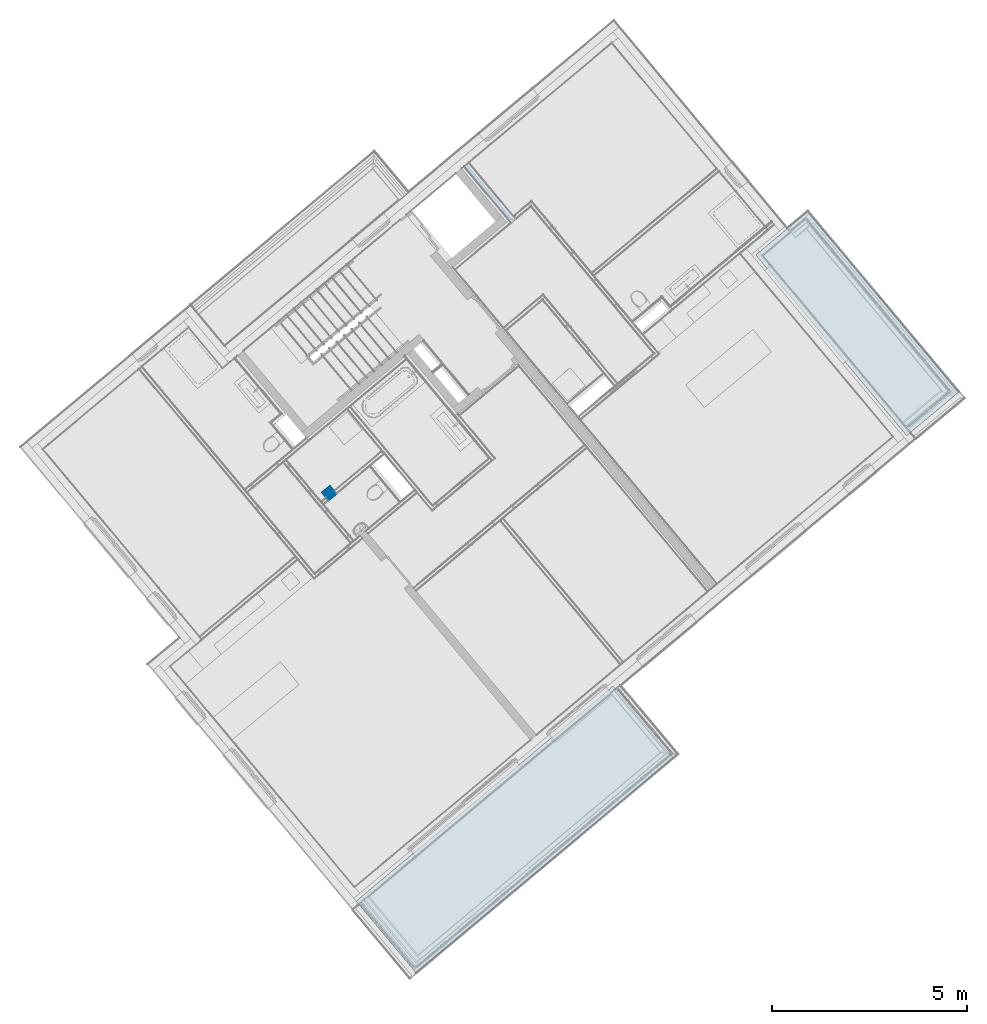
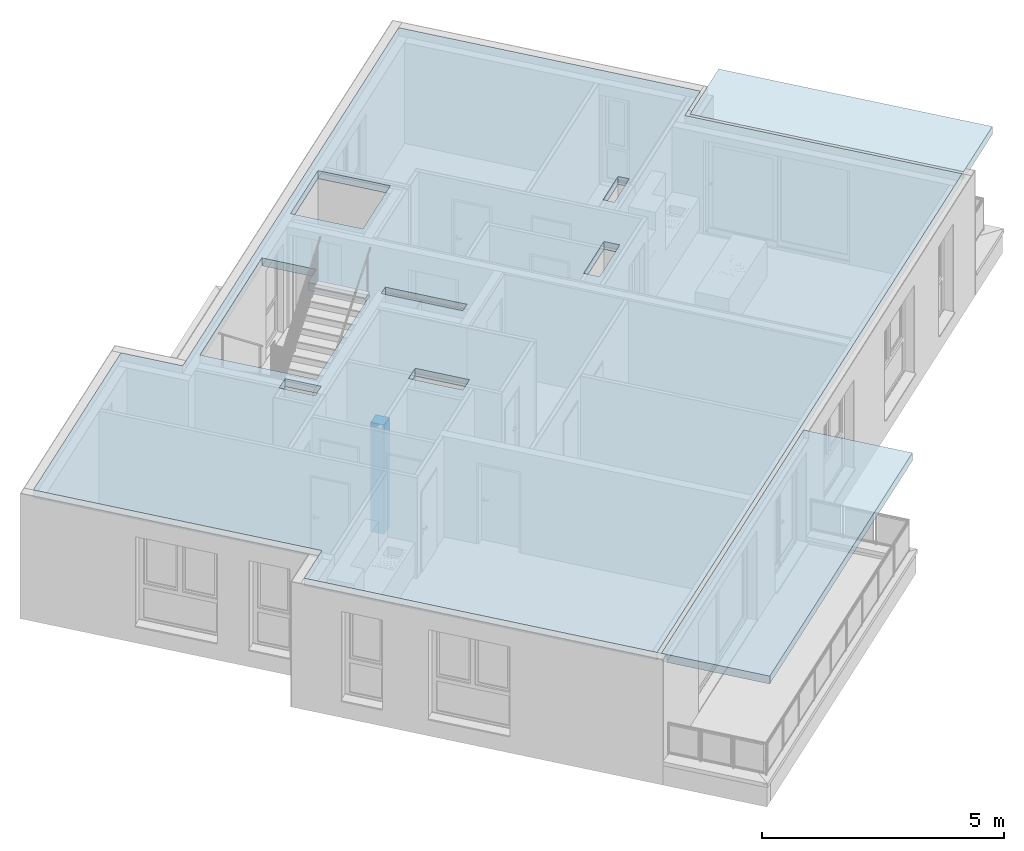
# One storey, part 6 of 53: 3 slabs, 1 column.
"""IFC4 building model written with IfcOpenShell, lengths in metres."""

from ifc_helpers import new_model, entity, si_unit, converted_unit, derived_unit, direction, frame, origin_with_axes, place, context, subcontext, project, spatial, polygons, material, type_object, element, save


model = new_model("IFC4")

# Units and contexts
model_context = context("Model", 3, precision=1e-05, world=origin_with_axes(), true_north=direction((0.0, 1.0)))
body_context = subcontext(model_context, "Body", "Model", "MODEL_VIEW")
ifc_project = project(units=[si_unit("LENGTHUNIT", "METRE"), si_unit("AREAUNIT", "SQUARE_METRE"), si_unit("VOLUMEUNIT", "CUBIC_METRE"), converted_unit("PLANEANGLEUNIT", "DEGREE", entity("IfcPlaneAngleMeasure", 0.0174532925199), si_unit("PLANEANGLEUNIT", "RADIAN"), dimensions=[0, 0, 0, 0, 0, 0, 0]), converted_unit("TIMEUNIT", "Year", entity("IfcTimeMeasure", 31556926.0), si_unit("TIMEUNIT", "SECOND"), dimensions=[0, 0, 1, 0, 0, 0, 0]), si_unit("MASSUNIT", "GRAM", prefix="KILO"), si_unit("THERMODYNAMICTEMPERATUREUNIT", "DEGREE_CELSIUS"), si_unit("LUMINOUSINTENSITYUNIT", "LUMEN"), si_unit("ENERGYUNIT", "JOULE", prefix="MEGA"), derived_unit("THERMALCONDUCTANCEUNIT", [(si_unit("POWERUNIT", "WATT"), 1), (si_unit("LENGTHUNIT", "METRE"), -1), (si_unit("THERMODYNAMICTEMPERATUREUNIT", "KELVIN"), -1)]), derived_unit("SPECIFICHEATCAPACITYUNIT", [(si_unit("ENERGYUNIT", "JOULE"), 1), (si_unit("MASSUNIT", "GRAM", prefix="KILO"), -1), (si_unit("THERMODYNAMICTEMPERATUREUNIT", "KELVIN"), -1)]), derived_unit("MASSDENSITYUNIT", [(si_unit("MASSUNIT", "GRAM", prefix="KILO"), 1), (si_unit("VOLUMEUNIT", "CUBIC_METRE"), -1)])], contexts=[model_context])

# Site, building, storey
site_placement = place(None, frame((-0.00153261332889, -0.00661245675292, 0.0), z_axis=(0.0, 0.0, 1.0), x_axis=(1.0, 0.0, 0.0)))
site = spatial("IfcSite", under=ifc_project, at=site_placement, Name="Gelände", CompositionType="ELEMENT")
building_placement = place(site_placement, origin_with_axes())
building = spatial("IfcBuilding", under=site, at=building_placement, Name="Gebäude", CompositionType="ELEMENT")
storey_placement = place(building_placement, frame((0.0, 0.0, 2.74), z_axis=(0.0, 0.0, 1.0), x_axis=(1.0, 0.0, 0.0)))
storey = spatial("IfcBuildingStorey", under=building, at=storey_placement, Name="OG1", CompositionType="ELEMENT", Elevation=2.74)

# Column
ifc_material_1 = material(Name="Stahlbeton")
column_type = type_object("IfcColumnType", Name="Stahlbeton 300 x 300", PredefinedType="NOTDEFINED")
column_placement = place(storey_placement, frame((-1.63508592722, 18.8845477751, 0.0), z_axis=(0.0, 0.0, 1.0), x_axis=(0.776862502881, 0.62967027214, 0.0)))
element("IfcColumn", 1, at=column_placement, inside=storey, type_object=column_type, material=ifc_material_1, Name="Stütze-002", PredefinedType="NOTDEFINED", context=body_context, shape_type="Tessellation", body=[
    polygons([(0.15, -0.15, 2.76), (-0.15, -0.15, 2.76), (-0.15, -0.15, 0.0), (0.15, -0.15, 0.0), (0.15, 0.15, 2.76), (-0.15, 0.15, 2.76), (-0.15, 0.15, 0.0), (0.15, 0.15, 0.0)], [[[1, 2, 3, 4]], [[5, 6, 2, 1]], [[2, 6, 7, 3]], [[8, 4, 3, 7]], [[5, 1, 4, 8]], [[6, 5, 8, 7]]], closed=True),
])

# Space
space_placement = place(storey_placement, frame((5.45265164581, 21.894591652, 0.0), z_axis=(0.0, 0.0, 1.0), x_axis=(-0.767365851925, -0.641209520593, 0.0)))
space = spatial("IfcSpace", under=storey, at=space_placement, CompositionType="ELEMENT", PredefinedType="NOTDEFINED")

# Slabs
ifc_material_2 = material(Name="Stahlbeton Decke")
slab_type = type_object("IfcSlabType", Name="Stahlbeton Decke 200", PredefinedType="NOTDEFINED")
slab_1_placement = place(space_placement, frame((12.4765603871, -8.00327675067, 2.96), z_axis=(0.0, 0.0, 1.0), x_axis=(-0.767365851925, 0.641209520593, 0.0)))
element("IfcSlab", 2, at=slab_1_placement, inside=space, type_object=slab_type, material=ifc_material_2, Name="Decke-005", PredefinedType="NOTDEFINED", context=body_context, shape_type="Tessellation", body=[
    polygons([(4.07665014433, -4.87872062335, 0.0), (0.0, 0.0, 0.0), (0.0, 0.0, -0.2), (4.07665014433, -4.87872062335, -0.2), (4.91680045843, 2.33426982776, 0.0), (4.04383630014, 3.37899544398, 0.0), (3.26020651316, -5.55747019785, 0.0), (8.24627027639, -11.5292856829, 0.0), (22.3482166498, 0.269879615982, 0.0), (18.4306387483, 4.95823093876, 0.0), (19.1505919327, 5.55982352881, 0.0), (14.885464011, 10.6640670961, 0.0), (8.66151722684, 3.63824574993, 0.0), (9.53351274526, 2.59478313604, 0.0), (7.06314257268, 0.530546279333, 0.0), (5.42163711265, 2.49501373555, 0.0), (8.28112859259, 4.88415112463, 0.0), (9.05053288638, 3.96327272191, 0.0), (6.75554469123, 0.0322142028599, 0.0), (6.24543082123, 0.642691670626, 0.0), (6.51828722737, 0.870689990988, 0.0), (7.02829317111, 0.260341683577, 0.0), (9.50268967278, -1.32098780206, 0.0), (8.73331585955, -0.400241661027, 0.0), (9.03663065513, -0.146792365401, 0.0), (9.80600446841, -1.06753850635, 0.0), (14.930655, 1.58962953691, 0.0), (13.994057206, 0.808009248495, 0.0), (13.7697528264, 1.07643551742, 0.0), (14.7058636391, 1.85864802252, 0.0), (10.9327816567, 1.15607498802, 0.0), (9.77780938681, 2.53828509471, 0.0), (9.96625314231, 2.69581328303, 0.0), (11.1206759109, 1.31292774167, 0.0), (15.6042936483, 2.98097432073, 0.0), (15.4451269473, 3.17145666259, 0.0), (16.1334349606, 3.74660559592, 0.0), (16.2921456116, 3.55574217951, 0.0), (11.8825374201, 5.80764906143, 0.0), (10.6160002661, 4.74933290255, 0.0), (9.59311855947, 5.97464512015, 0.0), (10.8590745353, 7.03247564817, 0.0), (4.04383630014, 3.37899544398, -0.2), (3.26020651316, -5.55747019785, -0.2), (4.91680045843, 2.33426982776, -0.2), (14.885464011, 10.6640670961, -0.2), (19.1505919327, 5.55982352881, -0.2), (18.4306387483, 4.95823093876, -0.2), (22.3482166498, 0.269879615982, -0.2), (8.24627027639, -11.5292856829, -0.2), (8.28112859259, 4.88415112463, -0.2), (5.42163711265, 2.49501373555, -0.2), (7.06314257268, 0.530546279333, -0.2), (9.53351274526, 2.59478313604, -0.2), (8.66151722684, 3.63824574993, -0.2), (9.05053288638, 3.96327272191, -0.2), (6.75554469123, 0.0322142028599, -0.2), (7.02829317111, 0.260341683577, -0.2), (6.51828722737, 0.870689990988, -0.2), (6.24543082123, 0.642691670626, -0.2), (9.50268967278, -1.32098780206, -0.2), (9.80600446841, -1.06753850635, -0.2), (9.03663065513, -0.146792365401, -0.2), (8.73331585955, -0.400241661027, -0.2), (14.930655, 1.58962953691, -0.2), (14.7058636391, 1.85864802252, -0.2), (13.7697528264, 1.07643551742, -0.2), (13.994057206, 0.808009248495, -0.2), (10.9327816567, 1.15607498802, -0.2), (11.1206759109, 1.31292774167, -0.2), (9.96625314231, 2.69581328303, -0.2), (9.77780938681, 2.53828509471, -0.2), (15.6042936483, 2.98097432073, -0.2), (16.2921456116, 3.55574217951, -0.2), (16.1334349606, 3.74660559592, -0.2), (15.4451269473, 3.17145666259, -0.2), (11.8825374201, 5.80764906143, -0.2), (10.8590745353, 7.03247564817, -0.2), (9.59311855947, 5.97464512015, -0.2), (10.6160002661, 4.74933290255, -0.2)], [[[1, 2, 3, 4]], [[5, 6, 2, 1, 7, 8, 9, 10, 11, 12], [13, 14, 15, 16, 17, 18], [19, 20, 21, 22], [23, 24, 25, 26], [27, 28, 29, 30], [31, 32, 33, 34], [35, 36, 37, 38], [39, 40, 41, 42]], [[2, 6, 43, 3]], [[44, 4, 3, 43, 45, 46, 47, 48, 49, 50], [51, 52, 53, 54, 55, 56], [57, 58, 59, 60], [61, 62, 63, 64], [65, 66, 67, 68], [69, 70, 71, 72], [73, 74, 75, 76], [77, 78, 79, 80]], [[7, 1, 4, 44]], [[6, 5, 45, 43]], [[8, 7, 44, 50]], [[9, 8, 50, 49]], [[10, 9, 49, 48]], [[11, 10, 48, 47]], [[12, 11, 47, 46]], [[5, 12, 46, 45]], [[14, 13, 55, 54]], [[15, 14, 54, 53]], [[16, 15, 53, 52]], [[17, 16, 52, 51]], [[18, 17, 51, 56]], [[13, 18, 56, 55]], [[20, 19, 57, 60]], [[21, 20, 60, 59]], [[22, 21, 59, 58]], [[19, 22, 58, 57]], [[24, 23, 61, 64]], [[25, 24, 64, 63]], [[26, 25, 63, 62]], [[23, 26, 62, 61]], [[28, 27, 65, 68]], [[29, 28, 68, 67]], [[30, 29, 67, 66]], [[27, 30, 66, 65]], [[32, 31, 69, 72]], [[33, 32, 72, 71]], [[34, 33, 71, 70]], [[31, 34, 70, 69]], [[36, 35, 73, 76]], [[37, 36, 76, 75]], [[38, 37, 75, 74]], [[35, 38, 74, 73]], [[40, 39, 77, 80]], [[41, 40, 80, 79]], [[42, 41, 79, 78]], [[39, 42, 78, 77]]], closed=True),
])
slab_2_placement = place(storey_placement, frame((-0.94615598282, 8.43364053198, 2.96), z_axis=(0.0, 0.0, 1.0), x_axis=(1.0, 0.0, 0.0)))
element("IfcSlab", 3, at=slab_2_placement, inside=storey, type_object=slab_type, material=ifc_material_2, Name="Decke-005", PredefinedType="NOTDEFINED", context=body_context, shape_type="Tessellation", body=[
    polygons([(0.0, 0.0, 0.0), (0.0, 0.0, -0.2), (1.5312027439, -1.83370925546, -0.2), (1.5312027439, -1.83370925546, 0.0), (6.58003248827, 5.5055349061, 0.0), (6.58003248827, 5.5055349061, -0.2), (8.11338479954, 3.66770283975, -0.2), (8.02914256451, 3.59595752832, -0.2), (8.02914256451, 3.59595752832, 0.0), (8.11338479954, 3.66770283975, 0.0)], [[[1, 2, 3, 4]], [[5, 6, 2, 1]], [[3, 2, 6, 7, 8]], [[4, 3, 8, 9]], [[5, 1, 4, 9, 10]], [[10, 7, 6, 5]], [[9, 8, 7, 10]]], closed=True),
])
slab_3_placement = place(storey_placement, frame((13.1563939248, 20.357120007, 2.96), z_axis=(0.0, 0.0, 1.0), x_axis=(1.0, 0.0, 0.0)))
element("IfcSlab", 4, at=slab_3_placement, inside=storey, type_object=slab_type, material=ifc_material_2, Name="Decke-005", PredefinedType="NOTDEFINED", context=body_context, shape_type="Tessellation", body=[
    polygons([(0.0, 0.0, 0.0), (0.0, 0.0, -0.2), (1.33147157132, 1.11257523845, -0.2), (1.33147157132, 1.11257523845, 0.0), (-3.86628113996, 4.62696205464, 0.0), (-3.86628113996, 4.62696205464, -0.2), (-2.53479063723, 5.73955311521, -0.2), (-2.53479063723, 5.73955311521, 0.0)], [[[1, 2, 3, 4]], [[5, 6, 2, 1]], [[3, 2, 6, 7]], [[4, 3, 7, 8]], [[5, 1, 4, 8]], [[8, 7, 6, 5]]], closed=True),
])

save(model, "model.ifc")
